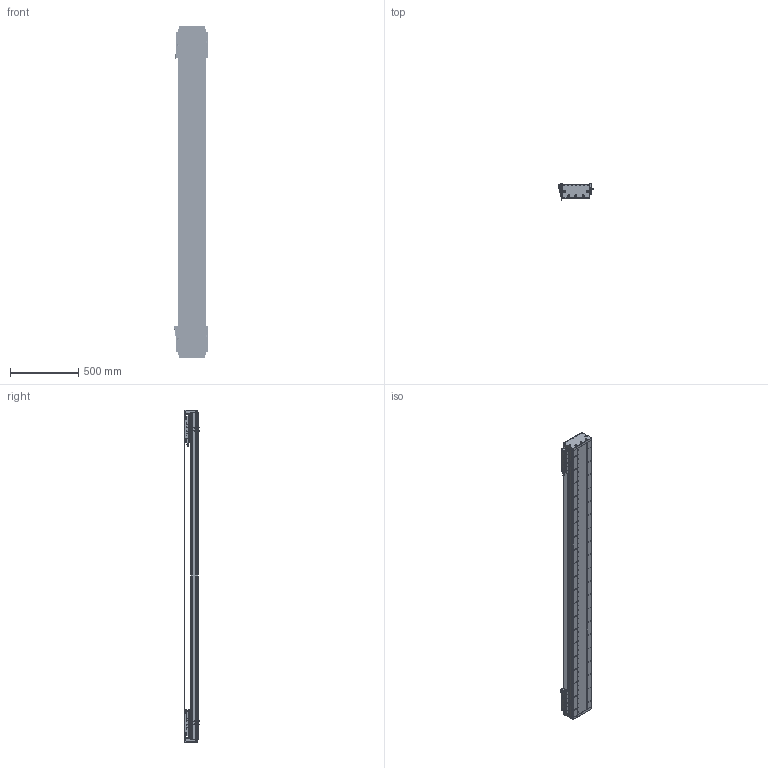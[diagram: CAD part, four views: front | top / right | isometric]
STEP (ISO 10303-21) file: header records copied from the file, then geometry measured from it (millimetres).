
FILE_DESCRIPTION (( 'STEP AP203' ), '1' );
FILE_NAME ('DA-C195-2-C2-T1940-C010-0.2 眻盄萇儂.STEP', '2025-08-14T02:08:18', ( '' ), ( '' ), 'SwSTEP 2.0', 'SolidWorks 2019', '' );
FILE_SCHEMA (( 'CONFIG_CONTROL_DESIGN' ));
Length unit declared in the file: millimetre
Products named in the file (19): DKW-KGZ-ZJ-00 中间光电开关支架-1; DA195詩湍嶺輸-1; DA-C195-2-C2-T1940-C010-0.2 眻盄萇儂; LMT黍杅芛-1; DA195詩湍菜輸-1; DA165-GYP-00 光电感应片(默认)-1; MS200 棠掑喜S315-T1740-1; PM-T45ㄗ侂狟ㄘ-1; DKW168-HXJ-ZJ-00 笢潔滅袉砎蝶-1; PM-Y65嫖萇羲壽郪璃-1; IU-CU195-L 菁釱絳寢-1; DKW-GYP-ZJ-00 笢潔嫖萇覜茼え-1; DA195詩湍裔啣-1; DA195詩湍郪璃-1; DA95-HXJ-00 遣喳砎蝶-1; CU195-C2賑輸-俋楷-1; 葩璃 DA95-GT-T-00-1; IU-CU195-L-00 菁釱(L2400); DA-C195-GD-DB-H-00 傷啣-1
Assembly tree (37 placements, depth 3):
  DA-C195-2-C2-T1940-C010-0.2 眻盄萇儂
    DA195詩湍郪璃-1
      DA195詩湍菜輸-1  x2
      DA195詩湍裔啣-1
      DA195詩湍嶺輸-1  x2
      DA95-HXJ-00 遣喳砎蝶-1  x8
      DA-C195-GD-DB-H-00 傷啣-1  x2
    IU-CU195-L 菁釱絳寢-1
      IU-CU195-L-00 菁釱(L2400)
      葩璃 DA95-GT-T-00-1  x4
    LMT黍杅芛-1  x2
    MS200 棠掑喜S315-T1740-1
    PM-T45ㄗ侂狟ㄘ-1  x4
    DA165-GYP-00 光电感应片(默认)-1  x2
    PM-Y65嫖萇羲壽郪璃-1
    DKW168-HXJ-ZJ-00 笢潔滅袉砎蝶-1
    DKW-GYP-ZJ-00 笢潔嫖萇覜茼え-1
    DKW-KGZ-ZJ-00 中间光电开关支架-1
    CU195-C2賑輸-俋楷-1  x2
Bounding box: 258.2 x 115.45 x 2440 mm (x, y, z)
Volume: 15356183.7 mm3; surface area: 4439352.2 mm2
Topology: 114 solids, 242 shells, 6925 faces, 18263 edges, 11345 vertices
Faces by surface type: cylinder 3220, plane 2621, cone 916, torus 88, sphere 72, bspline 8
Entity records: 146619 total; most frequent: CARTESIAN_POINT 38675, ORIENTED_EDGE 22358, DIRECTION 21610, EDGE_CURVE 11179, AXIS2_PLACEMENT_3D 7953, VERTEX_POINT 7232, LINE 5704, VECTOR 5704
